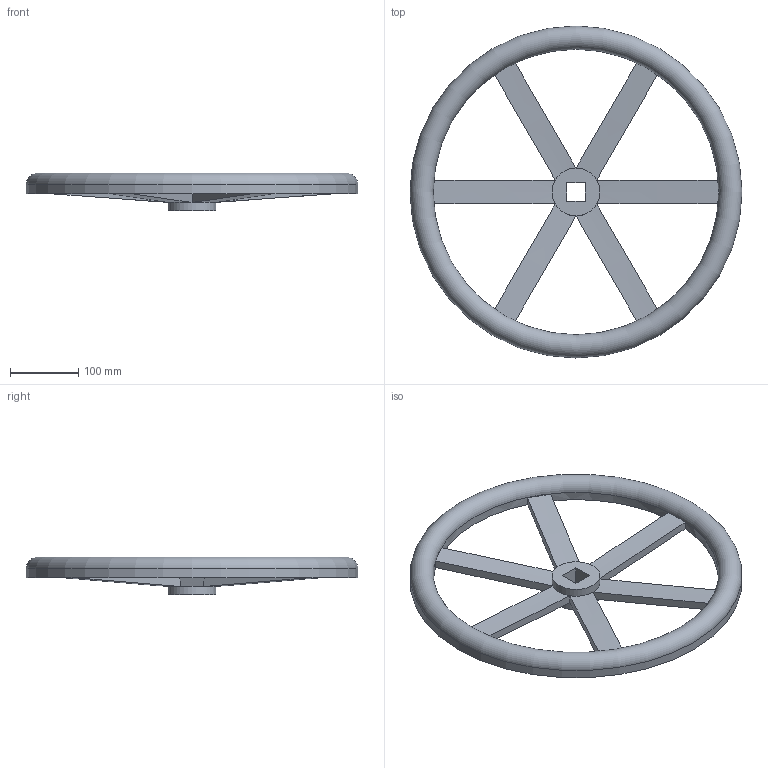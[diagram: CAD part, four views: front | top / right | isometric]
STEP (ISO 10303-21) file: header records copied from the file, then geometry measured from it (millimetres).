
FILE_DESCRIPTION( ( 'STEP AP203' ), '1' );
FILE_NAME( 'p:/temp/worker_154/temp/exporttempdir_4840_418_wnEGw/format_0/5017809 7800 DN250-350 (400).stp', '2021-01-13T08:48:28', ( 'License CC BY-ND 4.0' ), ( 'CADENAS' ), ' ', 'PARTsolutions', ' ' );
FILE_SCHEMA( ( 'CONFIG_CONTROL_DESIGN' ) );
Length unit declared in the file: millimetre
Products named in the file (1): _5017809 7800 DN250-350 (400)
Bounding box: 486 x 486 x 54.98 mm (x, y, z)
Volume: 930425.1 mm3; surface area: 332130.2 mm2
Topology: 1 solids, 1 shells, 40 faces, 104 edges, 56 vertices
Faces by surface type: plane 20, cone 12, cylinder 6, torus 2
Full cylindrical faces by diameter (mm): 70 x2, 418 x1, 425.2 x1, 478.8 x1, 486 x1
Entity records: 1360 total; most frequent: CARTESIAN_POINT 403, DIRECTION 190, ORIENTED_EDGE 186, EDGE_CURVE 93, AXIS2_PLACEMENT_3D 80, VERTEX_POINT 53, EDGE_LOOP 52, FACE_OUTER_BOUND 48
